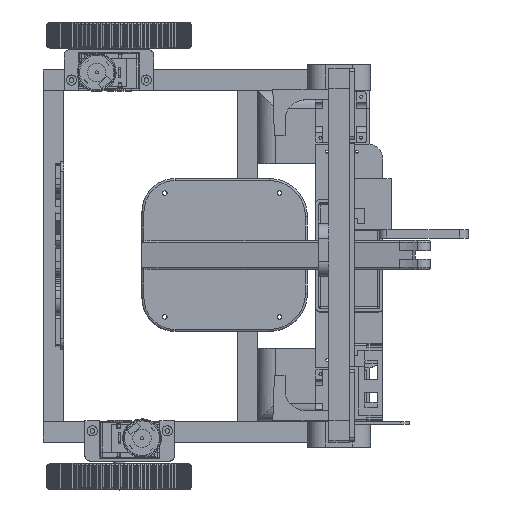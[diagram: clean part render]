
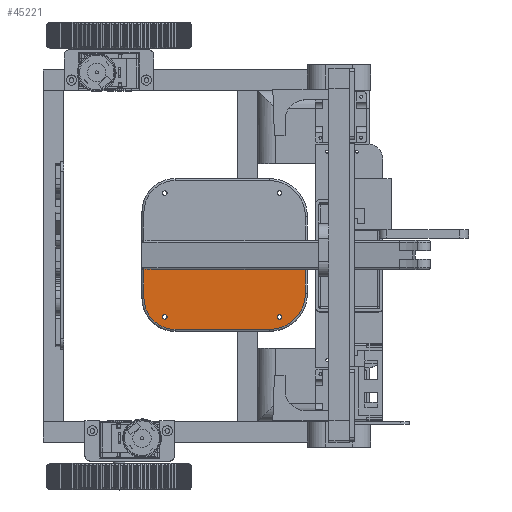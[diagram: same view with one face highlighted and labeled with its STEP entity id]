
A CAD part, top view. The second image highlights one B-rep face of the part: STEP entity #45221.
In plain terms, the highlighted planar face has unit normal (0, 0, 1).
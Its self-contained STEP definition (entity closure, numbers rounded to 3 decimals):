
#1841=ELLIPSE('',#48760,11.724,2.);
#2355=FACE_BOUND('',#8740,.T.);
#2356=FACE_BOUND('',#8741,.T.);
#3873=PLANE('',#48759);
#6047=FACE_OUTER_BOUND('',#8739,.T.);
#8739=EDGE_LOOP('',(#39873,#39874,#39875,#39876,#39877,#39878,#39879));
#8740=EDGE_LOOP('',(#39880));
#8741=EDGE_LOOP('',(#39881));
#12425=LINE('',#74041,#16287);
#12426=LINE('',#74043,#16288);
#12427=LINE('',#74047,#16289);
#12428=LINE('',#74051,#16290);
#16287=VECTOR('',#58279,10.);
#16288=VECTOR('',#58280,10.);
#16289=VECTOR('',#58283,10.);
#16290=VECTOR('',#58286,10.);
#18056=CIRCLE('',#48696,2.25);
#18060=CIRCLE('',#48702,2.25);
#18092=CIRCLE('',#48761,30.5);
#18093=CIRCLE('',#48762,35.5);
#21781=VERTEX_POINT('',#73885);
#21785=VERTEX_POINT('',#73897);
#21828=VERTEX_POINT('',#74039);
#21829=VERTEX_POINT('',#74040);
#21830=VERTEX_POINT('',#74042);
#21831=VERTEX_POINT('',#74044);
#21832=VERTEX_POINT('',#74046);
#21833=VERTEX_POINT('',#74048);
#21834=VERTEX_POINT('',#74050);
#27931=EDGE_CURVE('',#21781,#21781,#18056,.T.);
#27937=EDGE_CURVE('',#21785,#21785,#18060,.T.);
#28000=EDGE_CURVE('',#21828,#21829,#12425,.T.);
#28001=EDGE_CURVE('',#21828,#21830,#12426,.T.);
#28002=EDGE_CURVE('',#21831,#21830,#1841,.F.);
#28003=EDGE_CURVE('',#21832,#21831,#12427,.T.);
#28004=EDGE_CURVE('',#21833,#21832,#18092,.T.);
#28005=EDGE_CURVE('',#21834,#21833,#12428,.T.);
#28006=EDGE_CURVE('',#21829,#21834,#18093,.T.);
#39873=ORIENTED_EDGE('',*,*,#28000,.F.);
#39874=ORIENTED_EDGE('',*,*,#28001,.T.);
#39875=ORIENTED_EDGE('',*,*,#28002,.F.);
#39876=ORIENTED_EDGE('',*,*,#28003,.F.);
#39877=ORIENTED_EDGE('',*,*,#28004,.F.);
#39878=ORIENTED_EDGE('',*,*,#28005,.F.);
#39879=ORIENTED_EDGE('',*,*,#28006,.F.);
#39880=ORIENTED_EDGE('',*,*,#27931,.T.);
#39881=ORIENTED_EDGE('',*,*,#27937,.T.);
#45221=ADVANCED_FACE('',(#6047,#2355,#2356),#3873,.T.);
#48696=AXIS2_PLACEMENT_3D('',#73887,#58123,#58124);
#48702=AXIS2_PLACEMENT_3D('',#73899,#58137,#58138);
#48759=AXIS2_PLACEMENT_3D('',#74038,#58277,#58278);
#48760=AXIS2_PLACEMENT_3D('',#74045,#58281,#58282);
#48761=AXIS2_PLACEMENT_3D('',#74049,#58284,#58285);
#48762=AXIS2_PLACEMENT_3D('',#74052,#58287,#58288);
#58123=DIRECTION('center_axis',(0.,0.,-1.));
#58124=DIRECTION('ref_axis',(1.,0.,0.));
#58137=DIRECTION('center_axis',(0.,0.,-1.));
#58138=DIRECTION('ref_axis',(1.,0.,0.));
#58277=DIRECTION('center_axis',(0.,0.,1.));
#58278=DIRECTION('ref_axis',(1.,0.,0.));
#58279=DIRECTION('',(0.,-1.,0.));
#58280=DIRECTION('',(-1.,0.,0.));
#58281=DIRECTION('center_axis',(0.,0.,-1.));
#58282=DIRECTION('ref_axis',(-1.,0.,0.));
#58283=DIRECTION('',(0.,1.,0.));
#58284=DIRECTION('center_axis',(0.,0.,-1.));
#58285=DIRECTION('ref_axis',(-0.707,-0.707,0.));
#58286=DIRECTION('',(-1.,0.,0.));
#58287=DIRECTION('center_axis',(0.,0.,-1.));
#58288=DIRECTION('ref_axis',(0.707,-0.707,0.));
#73885=CARTESIAN_POINT('',(135.368,-225.,528.528));
#73887=CARTESIAN_POINT('Origin',(137.618,-225.,528.528));
#73897=CARTESIAN_POINT('',(22.75,-225.,528.528));
#73899=CARTESIAN_POINT('Origin',(25.,-225.,528.528));
#74038=CARTESIAN_POINT('Origin',(142.618,-164.325,528.528));
#74039=CARTESIAN_POINT('',(163.,-178.65,528.528));
#74040=CARTESIAN_POINT('',(163.,-201.825,528.528));
#74041=CARTESIAN_POINT('',(163.,-152.163,528.528));
#74042=CARTESIAN_POINT('',(14.341,-178.65,528.528));
#74043=CARTESIAN_POINT('',(132.618,-178.65,528.528));
#74044=CARTESIAN_POINT('',(4.618,-177.767,528.528));
#74045=CARTESIAN_POINT('Origin',(14.341,-176.65,528.528));
#74046=CARTESIAN_POINT('',(4.618,-206.825,528.528));
#74047=CARTESIAN_POINT('',(4.618,-152.163,528.528));
#74048=CARTESIAN_POINT('',(35.118,-237.325,528.528));
#74049=CARTESIAN_POINT('Origin',(35.118,-206.825,528.528));
#74050=CARTESIAN_POINT('',(127.5,-237.325,528.528));
#74051=CARTESIAN_POINT('',(72.618,-237.325,528.528));
#74052=CARTESIAN_POINT('Origin',(127.5,-201.825,528.528));
